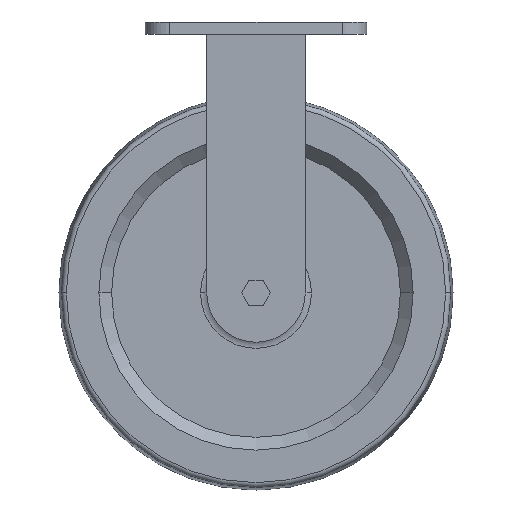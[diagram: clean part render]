
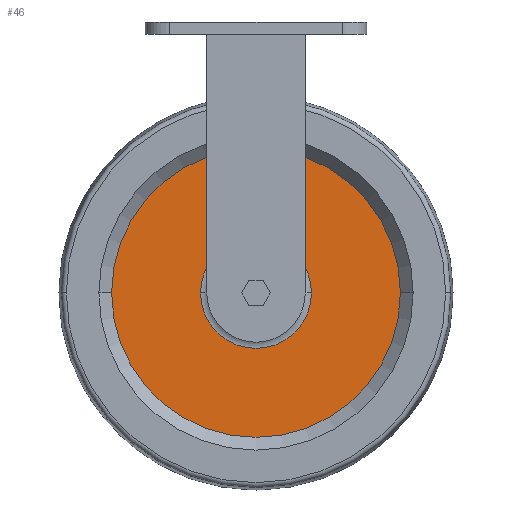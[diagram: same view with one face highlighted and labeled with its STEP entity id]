
A CAD part, front view. The second image highlights one B-rep face of the part: STEP entity #46.
In plain terms, the highlighted planar face has unit normal (0, -1, 0).
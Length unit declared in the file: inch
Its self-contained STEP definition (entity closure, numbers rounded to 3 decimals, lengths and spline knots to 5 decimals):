
#34 = FACE_OUTER_BOUND ( 'NONE', #1210, .T. ) ;
#38 = AXIS2_PLACEMENT_3D ( 'NONE', #1964, #1528, #2888 ) ;
#46 = ADVANCED_FACE ( 'NONE', ( #34, #740 ), #230, .F. ) ;
#57 = DIRECTION ( 'NONE',  ( -1., 0., 0. ) ) ;
#213 = VERTEX_POINT ( 'NONE', #524 ) ;
#230 = PLANE ( 'NONE',  #2794 ) ;
#437 = CARTESIAN_POINT ( 'NONE',  ( 2.93112, -0.375, 0. ) ) ;
#449 = CIRCLE ( 'NONE', #2396, 2.93112 ) ;
#462 = CARTESIAN_POINT ( 'NONE',  ( 1.125, -0.375, 0. ) ) ;
#524 = CARTESIAN_POINT ( 'NONE',  ( -1.125, -0.375, 0. ) ) ;
#535 = CARTESIAN_POINT ( 'NONE',  ( 1.125, -0.375, 0. ) ) ;
#568 = DIRECTION ( 'NONE',  ( -1., 0., 0. ) ) ;
#656 = ORIENTED_EDGE ( 'NONE', *, *, #2059, .F. ) ;
#690 = VERTEX_POINT ( 'NONE', #535 ) ;
#740 = FACE_BOUND ( 'NONE', #2450, .T. ) ;
#769 = ORIENTED_EDGE ( 'NONE', *, *, #2410, .T. ) ;
#815 = CARTESIAN_POINT ( 'NONE',  ( 0., -0.375, 0. ) ) ;
#1016 = CARTESIAN_POINT ( 'NONE',  ( 0., -0.375, 0. ) ) ;
#1044 = DIRECTION ( 'NONE',  ( 0., 1., 0. ) ) ;
#1060 = CARTESIAN_POINT ( 'NONE',  ( 0., -0.375, 0. ) ) ;
#1210 = EDGE_LOOP ( 'NONE', ( #656, #1664 ) ) ;
#1381 = DIRECTION ( 'NONE',  ( 0., 1., 0. ) ) ;
#1503 = DIRECTION ( 'NONE',  ( -1., 0., 0. ) ) ;
#1528 = DIRECTION ( 'NONE',  ( 0., 1., 0. ) ) ;
#1612 = EDGE_CURVE ( 'NONE', #213, #690, #1884, .T. ) ;
#1664 = ORIENTED_EDGE ( 'NONE', *, *, #2034, .F. ) ;
#1666 = DIRECTION ( 'NONE',  ( -1., 0., 0. ) ) ;
#1884 = CIRCLE ( 'NONE', #38, 1.125 ) ;
#1918 = CIRCLE ( 'NONE', #2453, 1.125 ) ;
#1964 = CARTESIAN_POINT ( 'NONE',  ( 0., -0.375, 0. ) ) ;
#2034 = EDGE_CURVE ( 'NONE', #2365, #2493, #2096, .T. ) ;
#2059 = EDGE_CURVE ( 'NONE', #2493, #2365, #449, .T. ) ;
#2096 = CIRCLE ( 'NONE', #2824, 2.93112 ) ;
#2161 = DIRECTION ( 'NONE',  ( 0., 1., 0. ) ) ;
#2273 = ORIENTED_EDGE ( 'NONE', *, *, #1612, .T. ) ;
#2365 = VERTEX_POINT ( 'NONE', #2858 ) ;
#2390 = DIRECTION ( 'NONE',  ( 0., 1., 0. ) ) ;
#2396 = AXIS2_PLACEMENT_3D ( 'NONE', #1016, #2390, #568 ) ;
#2410 = EDGE_CURVE ( 'NONE', #690, #213, #1918, .T. ) ;
#2450 = EDGE_LOOP ( 'NONE', ( #2273, #769 ) ) ;
#2453 = AXIS2_PLACEMENT_3D ( 'NONE', #1060, #1044, #1503 ) ;
#2493 = VERTEX_POINT ( 'NONE', #437 ) ;
#2794 = AXIS2_PLACEMENT_3D ( 'NONE', #462, #1381, #57 ) ;
#2824 = AXIS2_PLACEMENT_3D ( 'NONE', #815, #2161, #1666 ) ;
#2858 = CARTESIAN_POINT ( 'NONE',  ( -2.93112, -0.375, 0. ) ) ;
#2888 = DIRECTION ( 'NONE',  ( -1., 0., 0. ) ) ;
